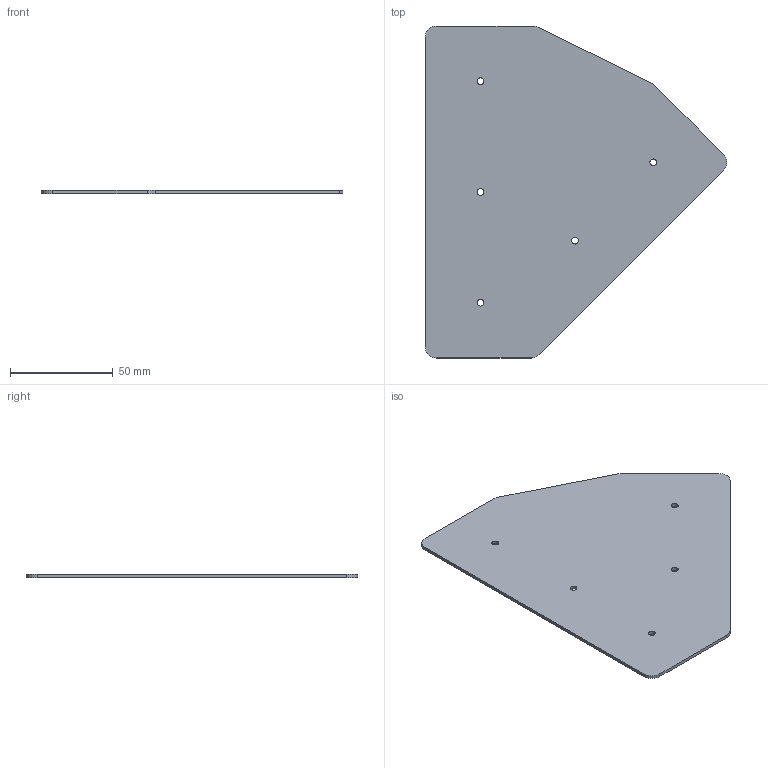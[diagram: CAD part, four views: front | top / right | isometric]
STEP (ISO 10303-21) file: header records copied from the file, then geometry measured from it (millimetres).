
FILE_DESCRIPTION (( 'STEP AP203' ), '1' );
FILE_NAME ('FDPGK-S_2-45.step', '2019-09-11T19:50:09', ( 'ydmin' ), ( '' ), 'SwSTEP 2.0', 'SolidWorks 2017', '' );
FILE_SCHEMA (( 'CONFIG_CONTROL_DESIGN' ));
Length unit declared in the file: inch
Products named in the file (1): FDPGK-S_2-45
Bounding box: 147.07 x 161.93 x 1.59 mm (x, y, z)
Volume: 26912.9 mm3; surface area: 34806.3 mm2
Topology: 1 solids, 1 shells, 24 faces, 66 edges, 44 vertices
Faces by surface type: cylinder 16, plane 8
Entity records: 881 total; most frequent: DIRECTION 148, CARTESIAN_POINT 135, ORIENTED_EDGE 132, EDGE_CURVE 66, AXIS2_PLACEMENT_3D 57, VERTEX_POINT 44, VECTOR 34, EDGE_LOOP 34
